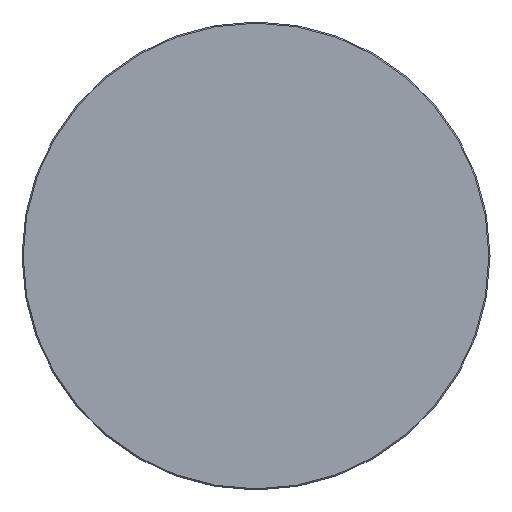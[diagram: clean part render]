
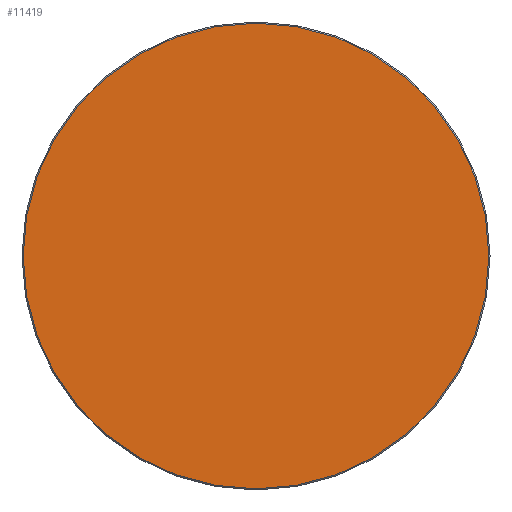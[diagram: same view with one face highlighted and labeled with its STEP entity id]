
A CAD part, top view. The second image highlights one B-rep face of the part: STEP entity #11419.
In plain terms, the highlighted planar face has unit normal (0, 0, 1).
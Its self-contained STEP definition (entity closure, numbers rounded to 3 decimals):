
#11344=CARTESIAN_POINT('',(0.,0.,20.));
#11345=DIRECTION('',(1.,0.,0.));
#11346=DIRECTION('',(0.,0.,1.));
#11347=AXIS2_PLACEMENT_3D('',#11344,#11346,#11345);
#11348=PLANE('',#11347);
#11349=CARTESIAN_POINT('',(-0.5,-298.5,20.));
#11350=VERTEX_POINT('',#11349);
#11351=CARTESIAN_POINT('',(0.5,-298.5,20.));
#11352=VERTEX_POINT('',#11351);
#11353=CARTESIAN_POINT('',(-0.5,-298.5,20.));
#11354=DIRECTION('',(1.,0.,0.));
#11355=VECTOR('',#11354,1.);
#11356=LINE('',#11353,#11355);
#11357=EDGE_CURVE('',#11350,#11352,#11356,.T.);
#11358=ORIENTED_EDGE('E105',*,*,#11357,.T.);
#11359=CARTESIAN_POINT('',(298.5,-0.5,20.));
#11360=VERTEX_POINT('',#11359);
#11361=CARTESIAN_POINT('',(0.5,-0.5,20.));
#11362=DIRECTION('',(0.,-1.,0.));
#11363=DIRECTION('',(0.,-0.,1.));
#11364=AXIS2_PLACEMENT_3D('',#11361,#11363,#11362);
#11365=CIRCLE('',#11364,298.);
#11366=EDGE_CURVE('',#11352,#11360,#11365,.T.);
#11367=ORIENTED_EDGE('E107',*,*,#11366,.T.);
#11368=CARTESIAN_POINT('',(298.5,0.5,20.));
#11369=VERTEX_POINT('',#11368);
#11370=CARTESIAN_POINT('',(298.5,-0.5,20.));
#11371=DIRECTION('',(0.,1.,0.));
#11372=VECTOR('',#11371,1.);
#11373=LINE('',#11370,#11372);
#11374=EDGE_CURVE('',#11360,#11369,#11373,.T.);
#11375=ORIENTED_EDGE('E109',*,*,#11374,.T.);
#11376=CARTESIAN_POINT('',(0.5,298.5,20.));
#11377=VERTEX_POINT('',#11376);
#11378=CARTESIAN_POINT('',(0.5,0.5,20.));
#11379=DIRECTION('',(1.,0.,0.));
#11380=DIRECTION('',(0.,0.,1.));
#11381=AXIS2_PLACEMENT_3D('',#11378,#11380,#11379);
#11382=CIRCLE('',#11381,298.);
#11383=EDGE_CURVE('',#11369,#11377,#11382,.T.);
#11384=ORIENTED_EDGE('E111',*,*,#11383,.T.);
#11385=CARTESIAN_POINT('',(-0.5,298.5,20.));
#11386=VERTEX_POINT('',#11385);
#11387=CARTESIAN_POINT('',(0.5,298.5,20.));
#11388=DIRECTION('',(-1.,0.,0.));
#11389=VECTOR('',#11388,1.);
#11390=LINE('',#11387,#11389);
#11391=EDGE_CURVE('',#11377,#11386,#11390,.T.);
#11392=ORIENTED_EDGE('E113',*,*,#11391,.T.);
#11393=CARTESIAN_POINT('',(-298.5,0.5,20.));
#11394=VERTEX_POINT('',#11393);
#11395=CARTESIAN_POINT('',(-0.5,0.5,20.));
#11396=DIRECTION('',(0.,1.,0.));
#11397=DIRECTION('',(0.,0.,1.));
#11398=AXIS2_PLACEMENT_3D('',#11395,#11397,#11396);
#11399=CIRCLE('',#11398,298.);
#11400=EDGE_CURVE('',#11386,#11394,#11399,.T.);
#11401=ORIENTED_EDGE('E115',*,*,#11400,.T.);
#11402=CARTESIAN_POINT('',(-298.5,-0.5,20.));
#11403=VERTEX_POINT('',#11402);
#11404=CARTESIAN_POINT('',(-298.5,0.5,20.));
#11405=DIRECTION('',(0.,-1.,0.));
#11406=VECTOR('',#11405,1.);
#11407=LINE('',#11404,#11406);
#11408=EDGE_CURVE('',#11394,#11403,#11407,.T.);
#11409=ORIENTED_EDGE('E117',*,*,#11408,.T.);
#11410=CARTESIAN_POINT('',(-0.5,-0.5,20.));
#11411=DIRECTION('',(-1.,0.,0.));
#11412=DIRECTION('',(-0.,0.,1.));
#11413=AXIS2_PLACEMENT_3D('',#11410,#11412,#11411);
#11414=CIRCLE('',#11413,298.);
#11415=EDGE_CURVE('',#11403,#11350,#11414,.T.);
#11416=ORIENTED_EDGE('E119',*,*,#11415,.T.);
#11417=EDGE_LOOP('',(#11358,#11367,#11375,#11384,#11392,#11401,#11409,#11416));
#11418=FACE_OUTER_BOUND('',#11417,.T.);
#11419=ADVANCED_FACE('F2',(#11418),#11348,.T.);
